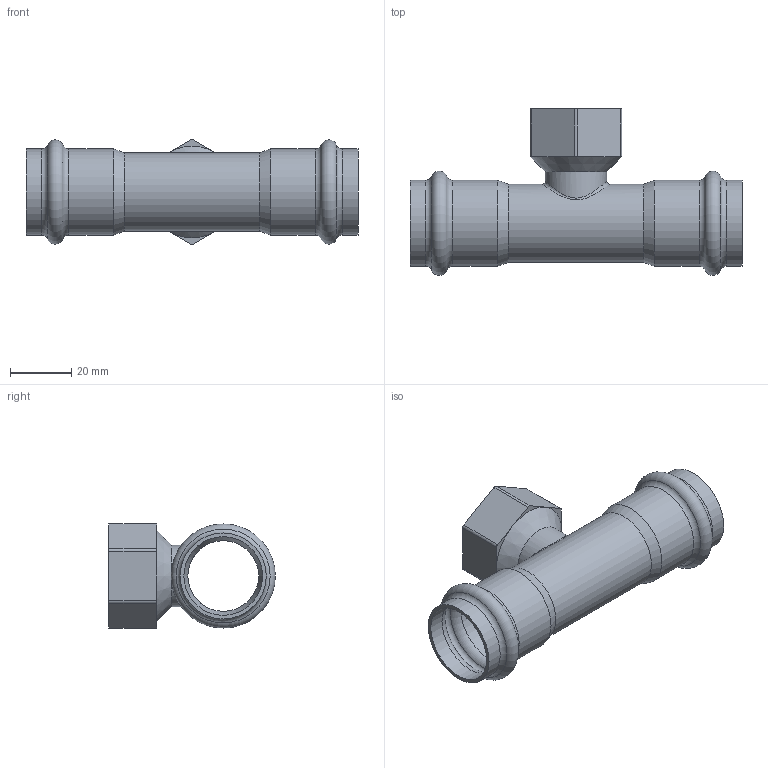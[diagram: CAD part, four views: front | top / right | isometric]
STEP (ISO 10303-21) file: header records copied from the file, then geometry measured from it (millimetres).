
FILE_DESCRIPTION(/* description */ (''),/* implementation_level */ '2;1');
FILE_NAME(/* name */ '51267020101.stp',/* time_stamp */ '2020-06-22T14:52:46+08:00',/* author */ (''),/* organization */ (''),/* preprocessor_version */ 'ST-DEVELOPER v11',/* originating_system */ 'SIEMENS PLM Software NX 7.5',/* authorisation */ '');
FILE_SCHEMA (('CONFIG_CONTROL_DESIGN'));
Length unit declared in the file: millimetre
Products named in the file (1): Admi4F60b48r
Bounding box: 108 x 54.19 x 34.1 mm (x, y, z)
Volume: 16861.3 mm3; surface area: 23116.1 mm2
Topology: 1 solids, 1 shells, 54 faces, 120 edges, 69 vertices
Faces by surface type: cylinder 19, plane 15, torus 12, cone 7, bspline 1
Full cylindrical faces by diameter (mm): 18.4 x1, 20 x1, 23 x1, 24.117 x1, 25.4 x1, 25.6 x4, 28 x4
Entity records: 1569 total; most frequent: CARTESIAN_POINT 411, DIRECTION 240, ORIENTED_EDGE 168, AXIS2_PLACEMENT_3D 105, EDGE_LOOP 92, EDGE_CURVE 84, FACE_BOUND 74, VERTEX_POINT 66
